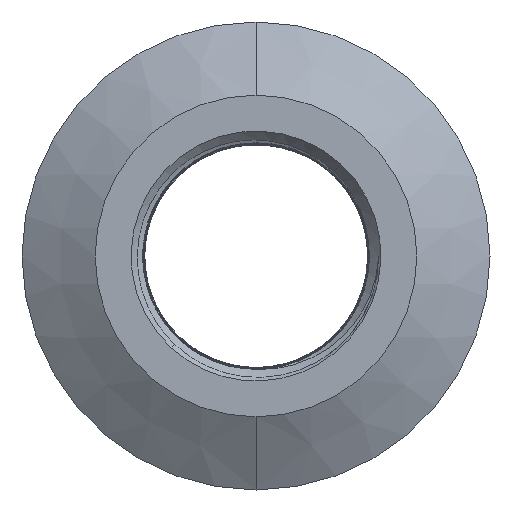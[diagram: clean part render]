
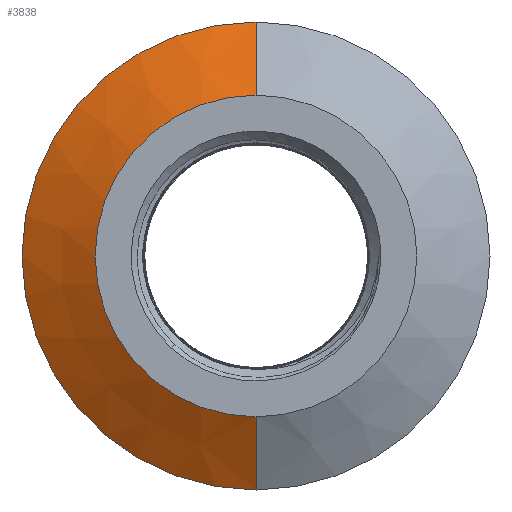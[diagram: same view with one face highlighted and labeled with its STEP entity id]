
A CAD part, left-side view. The second image highlights one B-rep face of the part: STEP entity #3838.
In plain terms, the highlighted conical face has half-angle 59.104 degrees and reference radius 17.462 mm.
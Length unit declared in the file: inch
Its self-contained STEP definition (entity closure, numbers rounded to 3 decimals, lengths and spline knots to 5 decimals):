
#3774=CARTESIAN_POINT('',(-0.469,0.0,0.6875));
#3775=VERTEX_POINT('',#3774);
#3783=CARTESIAN_POINT('',(-0.469,-0.0,-0.6875));
#3784=VERTEX_POINT('',#3783);
#3785=CARTESIAN_POINT('',(-0.469,0.0,0.0));
#3786=DIRECTION('',(-1.0,0.0,0.0));
#3787=DIRECTION('',(0.0,-1.0,0.0));
#3788=AXIS2_PLACEMENT_3D('',#3785,#3786,#3787);
#3789=CIRCLE('',#3788,0.6875);
#3790=EDGE_CURVE('n� 1908',#3775,#3784,#3789,.T.);
#3807=CARTESIAN_POINT('',(-0.282,-0.0,-1.0));
#3808=VERTEX_POINT('',#3807);
#3809=CARTESIAN_POINT('',(-0.469,-0.0,-0.6875));
#3810=DIRECTION('',(0.513,-0.0,-0.858));
#3811=VECTOR('',#3810,1.0);
#3812=LINE('',#3809,#3811);
#3813=EDGE_CURVE('n� 1922',#3784,#3808,#3812,.T.);
#3814=ORIENTED_EDGE('',*,*,#3813,.F.);
#3815=ORIENTED_EDGE('',*,*,#3790,.F.);
#3816=CARTESIAN_POINT('',(-0.282,0.0,1.0));
#3817=VERTEX_POINT('',#3816);
#3818=CARTESIAN_POINT('',(-0.469,0.0,0.6875));
#3819=DIRECTION('',(0.513,0.0,0.858));
#3820=VECTOR('',#3819,1.0);
#3821=LINE('',#3818,#3820);
#3822=EDGE_CURVE('n� 1930',#3775,#3817,#3821,.T.);
#3823=ORIENTED_EDGE('',*,*,#3822,.T.);
#3824=CARTESIAN_POINT('',(-0.282,0.0,0.0));
#3825=DIRECTION('',(-1.0,0.0,0.0));
#3826=DIRECTION('',(0.0,-1.0,0.0));
#3827=AXIS2_PLACEMENT_3D('',#3824,#3825,#3826);
#3828=CIRCLE('',#3827,1.0);
#3829=EDGE_CURVE('n� 1934',#3817,#3808,#3828,.T.);
#3830=ORIENTED_EDGE('',*,*,#3829,.T.);
#3831=EDGE_LOOP('',(#3814,#3815,#3823,#3830));
#3832=FACE_OUTER_BOUND('',#3831,.T.);
#3833=CARTESIAN_POINT('',(-0.469,0.0,0.0));
#3834=DIRECTION('',(1.0,0.0,0.0));
#3835=DIRECTION('',(0.0,-1.0,0.0));
#3836=AXIS2_PLACEMENT_3D('',#3833,#3834,#3835);
#3837=CONICAL_SURFACE('',#3836,0.6875,1.032);
#3838=ADVANCED_FACE('n� 1915',(#3832),#3837,.T.);
